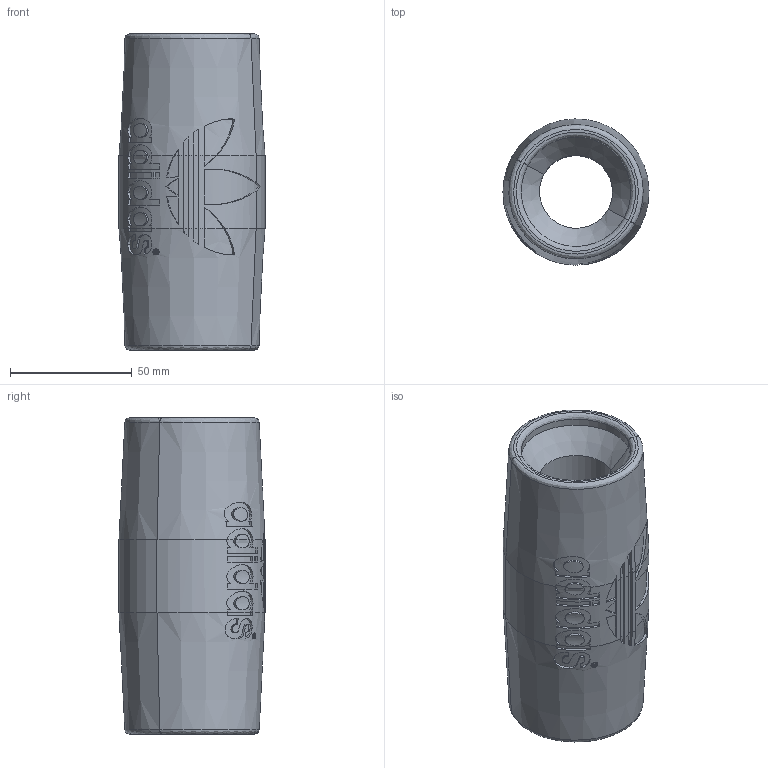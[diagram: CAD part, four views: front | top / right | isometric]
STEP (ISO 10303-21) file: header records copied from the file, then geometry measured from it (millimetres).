
FILE_DESCRIPTION(('CATIA V5 STEP Exchange'),'2;1');
FILE_NAME('C:\Users\Chaos\Documents\BSP_Adidas_klassisches_logo.stp','2013-12-28T22:19:29+00:00',('none'),('none'),'CATIA Version 5 Release 19 SP 2 (IN-10)','CATIA V5 STEP AP203','none');
FILE_SCHEMA(('CONFIG_CONTROL_DESIGN'));
Length unit declared in the file: millimetre
Products named in the file (1): Admi3132bltj
Bounding box: 59.99 x 59.99 x 130 mm (x, y, z)
Volume: 233797.6 mm3; surface area: 39402.4 mm2
Topology: 1 solids, 1 shells, 222 faces, 548 edges, 342 vertices
Faces by surface type: bspline 133, plane 29, cylinder 27, cone 25, revolution 8
Entity records: 9613 total; most frequent: CARTESIAN_POINT 5571, ORIENTED_EDGE 1096, EDGE_CURVE 548, B_SPLINE_CURVE_WITH_KNOTS 382, VERTEX_POINT 342, DIRECTION 306, EDGE_LOOP 238, ADVANCED_FACE 222
